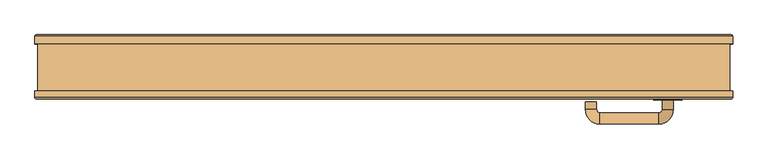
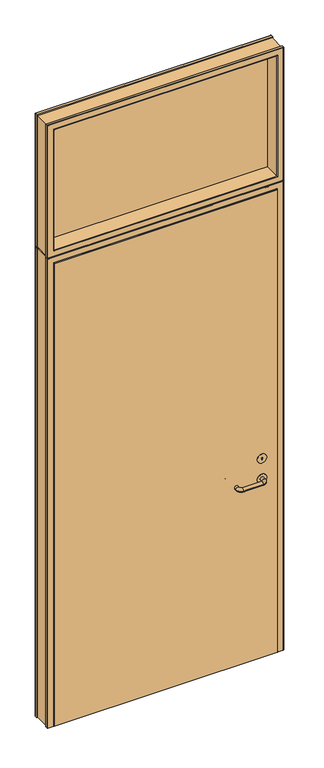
"""IFC4 building model written with IfcOpenShell, lengths in millimetres: door geometry, WOOD LINE_DÖRR & GLASPARTI INDRAGEN SOCKEL : WOOD LINE_DÖRR & GLASPARTI INDRAGEN SOCKEL."""

from ifc_helpers import new_model, si_unit, point, frame, frame_2d, origin, origin_with_axes, place, context, project, spatial, polyline, circle_curve, ellipse_curve, trimmed, segment, composite_curve, outline, extrude, source, transform, mapped, element, save
from ifc_brep_helpers import plane_surface, cylinder_surface, revolved_surface, advanced_brep


def door_3c1db5f4(model_context):
    return source(origin(), model_context, "Body", "SolidModel", [
        extrude(outline(polyline([(480.4836936, 76.5), (480.4836936, 72.5), (-480.4836936, 72.5), (-480.4836936, 76.5), (480.4836936, 76.5)])), frame((0.0, 0.0, 2119.5163064), z_axis=(0.0, 0.0, 1.0), x_axis=(1.0, 0.0, 0.0)), (0.0, 0.0, 1.0), 556.9673873),
        advanced_brep(
        [(399.0, 5.5388046, 800.0), (415.0, 5.5388046, 800.0), (399.0, -14.9611954, 800.0), (415.0, -14.9611954, 800.0), (305.0, -4.4611954, 800.0), (289.0, -4.4611954, 800.0), (394.0, -35.9611954, 800.0), (394.0, -19.9611954, 800.0), (310.0, -19.9611954, 800.0), (310.0, -35.9611954, 800.0), (289.0, -14.9611954, 800.0), (305.0, -14.9611954, 800.0)],
        [
            (0, 1, circle_curve(frame((407.0, 5.5388046, 800.0), z_axis=(0.0, 1.0, 0.0), x_axis=(1.0, 0.0, 0.0)), 8.0)),
            (1, 0, circle_curve(frame((407.0, 5.5388046, 800.0), z_axis=(0.0, 1.0, 0.0), x_axis=(1.0, 0.0, 0.0)), 8.0)),
            (0, 2),
            (2, 3, circle_curve(frame((407.0, -14.9611954, 800.0), z_axis=(0.0, 1.0, 0.0), x_axis=(1.0, 0.0, 0.0)), 8.0)),
            (3, 1),
            (3, 2, circle_curve(frame((407.0, -14.9611954, 800.0), z_axis=(0.0, 1.0, 0.0), x_axis=(1.0, 0.0, 0.0)), 8.0)),
            (4, 5, circle_curve(frame((297.0, -4.4611954, 800.0), z_axis=(0.0, 1.0, 0.0), x_axis=(-1.0, 0.0, 0.0)), 8.0)),
            (5, 4, circle_curve(frame((297.0, -4.4611954, 800.0), z_axis=(0.0, 1.0, 0.0), x_axis=(-1.0, 0.0, 0.0)), 8.0)),
            (6, 3, circle_curve(frame((394.0, -14.9611954, 800.0), z_axis=(0.0, 0.0, 1.0), x_axis=(1.0, 0.0, 0.0)), 21.0)),
            (2, 7, circle_curve(frame((394.0, -14.9611954, 800.0), z_axis=(0.0, 0.0, -1.0), x_axis=(1.0, 0.0, 0.0)), 5.0)),
            (7, 6, circle_curve(frame((394.0, -27.9611954, 800.0), z_axis=(1.0, 0.0, 0.0), x_axis=(0.0, -1.0, 0.0)), 8.0)),
            (6, 7, circle_curve(frame((394.0, -27.9611954, 800.0), z_axis=(1.0, 0.0, 0.0), x_axis=(0.0, -1.0, 0.0)), 8.0)),
            (7, 8),
            (8, 9, circle_curve(frame((310.0, -27.9611954, 800.0), z_axis=(1.0, 0.0, 0.0), x_axis=(0.0, -1.0, 0.0)), 8.0)),
            (9, 6),
            (9, 8, circle_curve(frame((310.0, -27.9611954, 800.0), z_axis=(1.0, 0.0, 0.0), x_axis=(0.0, -1.0, 0.0)), 8.0)),
            (10, 9, circle_curve(frame((310.0, -14.9611954, 800.0), z_axis=(0.0, 0.0, 1.0), x_axis=(0.0, -1.0, 0.0)), 21.0)),
            (8, 11, circle_curve(frame((310.0, -14.9611954, 800.0), z_axis=(0.0, 0.0, -1.0), x_axis=(0.0, -1.0, 0.0)), 5.0)),
            (11, 10, circle_curve(frame((297.0, -14.9611954, 800.0), z_axis=(0.0, -1.0, 0.0), x_axis=(-1.0, 0.0, 0.0)), 8.0)),
            (10, 11, circle_curve(frame((297.0, -14.9611954, 800.0), z_axis=(0.0, -1.0, 0.0), x_axis=(-1.0, 0.0, 0.0)), 8.0)),
            (11, 4),
            (5, 10),
        ],
        [
            plane_surface(frame((407.0, 5.5388046, 0.0), z_axis=(0.0, 1.0, 0.0), x_axis=(0.0, 0.0, 1.0))),
            cylinder_surface(frame((407.0, 5.5388046, 800.0), z_axis=(0.0, 1.0, 0.0), x_axis=(1.0, 0.0, 0.0)), 8.0),
            plane_surface(frame((297.0, -4.4611954, 0.0), z_axis=(0.0, 1.0, 0.0), x_axis=(0.0, 0.0, 1.0))),
            revolved_surface(trimmed(ellipse_curve(frame((407.0, -14.9611954, 800.0), z_axis=(0.0, 1.0, 0.0), x_axis=(1.0, 0.0, 0.0)), 8.0, 8.0), [point((399.0, -14.9611954, 800.0))], [point((415.0, -14.9611954, 800.0))], True, "CARTESIAN"), (394.0, -14.9611954, 0.0), (0.0, 0.0, -1.0)),
            revolved_surface(trimmed(ellipse_curve(frame((407.0, -14.9611954, 800.0), z_axis=(0.0, 1.0, 0.0), x_axis=(1.0, 0.0, 0.0)), 8.0, 8.0), [point((415.0, -14.9611954, 800.0))], [point((399.0, -14.9611954, 800.0))], True, "CARTESIAN"), (394.0, -14.9611954, 0.0), (0.0, 0.0, -1.0)),
            cylinder_surface(frame((394.0, -27.9611954, 800.0), z_axis=(1.0, 0.0, 0.0), x_axis=(0.0, -1.0, 0.0)), 8.0),
            revolved_surface(trimmed(ellipse_curve(frame((310.0, -27.9611954, 800.0), z_axis=(1.0, 0.0, 0.0), x_axis=(0.0, -1.0, 0.0)), 8.0, 8.0), [point((310.0, -19.9611954, 800.0))], [point((310.0, -35.9611954, 800.0))], True, "CARTESIAN"), (310.0, -14.9611954, 0.0), (0.0, 0.0, -1.0)),
            revolved_surface(trimmed(ellipse_curve(frame((310.0, -27.9611954, 800.0), z_axis=(1.0, 0.0, 0.0), x_axis=(0.0, -1.0, 0.0)), 8.0, 8.0), [point((310.0, -35.9611954, 800.0))], [point((310.0, -19.9611954, 800.0))], True, "CARTESIAN"), (310.0, -14.9611954, 0.0), (0.0, 0.0, -1.0)),
            cylinder_surface(frame((297.0, -14.9611954, 800.0), z_axis=(0.0, -1.0, 0.0), x_axis=(-1.0, 0.0, 0.0)), 8.0),
        ],
        [
            (0, [[1, 2]]),
            (1, [[-1, 3, 4, 5]]),
            (1, [[-2, -5, 6, -3]]),
            (2, [[7, 8]]),
            (3, [[9, -4, 10, 11]]),
            (4, [[-10, -6, -9, 12]]),
            (5, [[-11, 13, 14, 15]]),
            (5, [[-12, -15, 16, -13]]),
            (6, [[17, -14, 18, 19]]),
            (7, [[-18, -16, -17, 20]]),
            (8, [[-19, 21, -8, 22]]),
            (8, [[-20, -22, -7, -21]]),
        ],
    ),
        extrude(outline(composite_curve([segment(trimmed(circle_curve(frame_2d((800.0, 407.0)), 20.0), [point((800.0, 387.0))], [point((800.0, 427.0))], False, "CARTESIAN"), True, "CONTINUOUS"), segment(trimmed(circle_curve(frame_2d((800.0, 407.0)), 20.0), [point((800.0, 427.0))], [point((800.0, 387.0))], False, "CARTESIAN"), True, "CONTINUOUS")], self_intersect=False)), frame((0.0, -1.6149272, 0.0), z_axis=(0.0, 1.0, 0.0), x_axis=(0.0, 0.0, 1.0)), (0.0, 0.0, 1.0), 1.6149272),
        extrude(outline(composite_curve([segment(trimmed(circle_curve(frame_2d((890.0, 407.0)), 20.0), [point((890.0, 387.0))], [point((890.0, 427.0))], False, "CARTESIAN"), True, "CONTINUOUS"), segment(trimmed(circle_curve(frame_2d((890.0, 407.0)), 20.0), [point((890.0, 427.0))], [point((890.0, 387.0))], False, "CARTESIAN"), True, "CONTINUOUS")], self_intersect=False), holes=[composite_curve([segment(trimmed(circle_curve(frame_2d((892.0, 407.0)), 2.5), [point((889.7087122, 406.0))], [point((889.7087122, 408.0))], True, "CARTESIAN"), True, "CONTINUOUS"), segment(polyline([(889.7087122, 408.0), (884.5, 408.0), (884.5, 406.0), (889.7087122, 406.0)]), True, "CONTINUOUS")], self_intersect=False)]), frame((0.0, -1.6149272, 0.0), z_axis=(0.0, 1.0, 0.0), x_axis=(0.0, 0.0, 1.0)), (0.0, 0.0, 1.0), 1.6149272),
        advanced_brep(
        [(-472.0, 90.0, 2128.0), (-474.0, 92.0, 2126.0), (-474.0, 92.0, 2670.0), (-472.0, 90.0, 2668.0), (-472.0, 78.0, 2128.0), (-472.0, 78.0, 2668.0), (-474.0, 0.0, 2126.0), (-472.0, 2.0, 2128.0), (-472.0, 2.0, 2668.0), (-474.0, 0.0, 2670.0), (-500.0, 90.0, 2100.0), (-500.0, 79.0, 2100.0), (-500.0, 79.0, 2696.0), (-500.0, 90.0, 2696.0), (-498.0, 92.0, 2102.0), (-498.0, 92.0, 2694.0), (472.0, 90.0, 2668.0), (474.0, 92.0, 2670.0), (474.0, 92.0, 2126.0), (472.0, 90.0, 2128.0), (472.0, 78.0, 2668.0), (472.0, 78.0, 2128.0), (474.0, 0.0, 2670.0), (472.0, 2.0, 2668.0), (472.0, 2.0, 2128.0), (474.0, 0.0, 2126.0), (500.0, 90.0, 2696.0), (500.0, 79.0, 2696.0), (500.0, 79.0, 2100.0), (500.0, 90.0, 2100.0), (498.0, 92.0, 2694.0), (498.0, 92.0, 2102.0), (-498.0, 0.0, 2102.0), (498.0, 0.0, 2102.0), (498.0, 0.0, 2694.0), (-498.0, 0.0, 2694.0), (500.0, 2.0, 2100.0), (-500.0, 2.0, 2100.0), (500.0, 11.0, 2100.0), (-500.0, 11.0, 2100.0), (496.0, 79.0, 2104.0), (496.0, 11.0, 2104.0), (-496.0, 11.0, 2104.0), (-496.0, 79.0, 2104.0), (-500.0, 2.0, 2696.0), (-500.0, 11.0, 2696.0), (-496.0, 11.0, 2692.0), (-496.0, 79.0, 2692.0), (500.0, 2.0, 2696.0), (500.0, 11.0, 2696.0), (496.0, 11.0, 2692.0), (496.0, 79.0, 2692.0), (482.4836936, 71.0, 2117.5163064), (482.4836936, 78.0, 2117.5163064), (-482.4836936, 78.0, 2117.5163064), (-482.4836936, 71.0, 2117.5163064), (472.0, 71.0, 2128.0), (-472.0, 71.0, 2128.0), (-482.4836936, 78.0, 2678.4836936), (-482.4836936, 71.0, 2678.4836936), (-472.0, 71.0, 2668.0), (482.4836936, 78.0, 2678.4836936), (482.4836936, 71.0, 2678.4836936), (472.0, 71.0, 2668.0)],
        [
            (0, 1, ellipse_curve(frame((-474.0, 90.0, 2126.0), z_axis=(-0.7071067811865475, 0.0, 0.7071067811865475), x_axis=(-0.7071067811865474, 0.0, -0.7071067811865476)), 2.8284271, 2.0)),
            (1, 2),
            (2, 3, ellipse_curve(frame((-474.0, 90.0, 2670.0), z_axis=(-0.7071067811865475, 0.0, -0.7071067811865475), x_axis=(0.7071067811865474, 0.0, -0.7071067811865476)), 2.8284271, 2.0)),
            (3, 0),
            (4, 0),
            (3, 5),
            (5, 4),
            (6, 7, ellipse_curve(frame((-474.0, 2.0, 2126.0), z_axis=(-0.7071067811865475, 0.0, 0.7071067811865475), x_axis=(-0.7071067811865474, 0.0, -0.7071067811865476)), 2.8284271, 2.0)),
            (7, 8),
            (8, 9, ellipse_curve(frame((-474.0, 2.0, 2670.0), z_axis=(-0.7071067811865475, 0.0, -0.7071067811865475), x_axis=(0.7071067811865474, 0.0, -0.7071067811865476)), 2.8284271, 2.0)),
            (9, 6),
            (10, 11),
            (11, 12),
            (12, 13),
            (13, 10),
            (14, 10, ellipse_curve(frame((-498.0, 90.0, 2102.0), z_axis=(-0.7071067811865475, 0.0, 0.7071067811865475), x_axis=(-0.7071067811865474, 0.0, -0.7071067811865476)), 2.8284271, 2.0)),
            (13, 15, ellipse_curve(frame((-498.0, 90.0, 2694.0), z_axis=(-0.7071067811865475, 0.0, -0.7071067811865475), x_axis=(0.7071067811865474, 0.0, -0.7071067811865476)), 2.8284271, 2.0)),
            (15, 14),
            (16, 17, ellipse_curve(frame((474.0, 90.0, 2670.0), z_axis=(0.7071067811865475, 0.0, -0.7071067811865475), x_axis=(0.7071067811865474, 0.0, 0.7071067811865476)), 2.8284271, 2.0)),
            (17, 18),
            (18, 19, ellipse_curve(frame((474.0, 90.0, 2126.0), z_axis=(0.7071067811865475, 0.0, 0.7071067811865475), x_axis=(-0.7071067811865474, 0.0, 0.7071067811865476)), 2.8284271, 2.0)),
            (19, 16),
            (20, 16),
            (19, 21),
            (21, 20),
            (22, 23, ellipse_curve(frame((474.0, 2.0, 2670.0), z_axis=(0.7071067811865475, 0.0, -0.7071067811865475), x_axis=(0.7071067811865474, 0.0, 0.7071067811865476)), 2.8284271, 2.0)),
            (23, 24),
            (24, 25, ellipse_curve(frame((474.0, 2.0, 2126.0), z_axis=(0.7071067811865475, 0.0, 0.7071067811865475), x_axis=(-0.7071067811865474, 0.0, 0.7071067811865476)), 2.8284271, 2.0)),
            (25, 22),
            (26, 27),
            (27, 28),
            (28, 29),
            (29, 26),
            (30, 26, ellipse_curve(frame((498.0, 90.0, 2694.0), z_axis=(0.7071067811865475, 0.0, -0.7071067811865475), x_axis=(0.7071067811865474, 0.0, 0.7071067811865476)), 2.8284271, 2.0)),
            (29, 31, ellipse_curve(frame((498.0, 90.0, 2102.0), z_axis=(0.7071067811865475, 0.0, 0.7071067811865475), x_axis=(-0.7071067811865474, 0.0, 0.7071067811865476)), 2.8284271, 2.0)),
            (31, 30),
            (2, 17),
            (16, 3),
            (20, 5),
            (8, 23),
            (22, 9),
            (12, 27),
            (26, 13),
            (30, 15),
            (18, 1),
            (0, 19),
            (4, 21),
            (24, 7),
            (6, 25),
            (32, 33),
            (33, 34),
            (34, 35),
            (35, 32),
            (28, 11),
            (10, 29),
            (14, 31),
            (36, 33, ellipse_curve(frame((498.0, 2.0, 2102.0), z_axis=(-0.7071067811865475, 0.0, -0.7071067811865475), x_axis=(0.7071067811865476, 0.0, -0.7071067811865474)), 2.8284271, 2.0)),
            (32, 37, ellipse_curve(frame((-498.0, 2.0, 2102.0), z_axis=(0.7071067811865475, 0.0, -0.7071067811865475), x_axis=(0.7071067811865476, 0.0, 0.7071067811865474)), 2.8284271, 2.0)),
            (37, 36),
            (38, 36),
            (37, 39),
            (39, 38),
            (40, 41),
            (41, 42),
            (42, 43),
            (43, 40),
            (35, 44, ellipse_curve(frame((-498.0, 2.0, 2694.0), z_axis=(-0.7071067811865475, 0.0, -0.7071067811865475), x_axis=(0.7071067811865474, 0.0, -0.7071067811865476)), 2.8284271, 2.0)),
            (44, 37),
            (44, 45),
            (45, 39),
            (42, 46),
            (46, 47),
            (47, 43),
            (34, 48, ellipse_curve(frame((498.0, 2.0, 2694.0), z_axis=(-0.7071067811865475, 0.0, 0.7071067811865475), x_axis=(-0.7071067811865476, 0.0, -0.7071067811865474)), 2.8284271, 2.0)),
            (48, 44),
            (48, 49),
            (49, 45),
            (46, 50),
            (50, 51),
            (51, 47),
            (36, 48),
            (38, 49),
            (41, 50),
            (40, 51),
            (52, 53),
            (53, 54),
            (54, 55),
            (55, 52),
            (24, 56),
            (56, 57),
            (57, 7),
            (54, 58),
            (58, 59),
            (59, 55),
            (57, 60),
            (60, 8),
            (58, 61),
            (61, 62),
            (62, 59),
            (60, 63),
            (63, 23),
            (53, 61),
            (52, 62),
            (56, 63),
        ],
        [
            cylinder_surface(frame((-474.0, 90.0, 2100.0), z_axis=(0.0, 0.0, -1.0), x_axis=(0.0, -1.0, 0.0)), 2.0),
            plane_surface(frame((-472.0, 90.0, 2128.0), z_axis=(1.0, 0.0, 0.0), x_axis=(0.0, 0.0, 1.0))),
            cylinder_surface(frame((-474.0, 2.0, 2100.0), z_axis=(0.0, 0.0, -1.0), x_axis=(0.0, -1.0, 0.0)), 2.0),
            plane_surface(frame((-500.0, 79.0, 2100.0), z_axis=(-1.0, 0.0, 0.0), x_axis=(0.0, 0.0, 1.0))),
            cylinder_surface(frame((-498.0, 90.0, 2100.0), z_axis=(0.0, 0.0, -1.0), x_axis=(0.0, -1.0, 0.0)), 2.0),
            cylinder_surface(frame((474.0, 90.0, 2696.0), z_axis=(0.0, 0.0, 1.0), x_axis=(0.0, -1.0, 0.0)), 2.0),
            plane_surface(frame((472.0, 90.0, 2668.0), z_axis=(-1.0, 0.0, 0.0), x_axis=(0.0, 0.0, -1.0))),
            cylinder_surface(frame((474.0, 2.0, 2696.0), z_axis=(0.0, 0.0, 1.0), x_axis=(0.0, -1.0, 0.0)), 2.0),
            plane_surface(frame((500.0, 79.0, 2696.0), z_axis=(1.0, 0.0, 0.0), x_axis=(0.0, 0.0, -1.0))),
            cylinder_surface(frame((498.0, 90.0, 2696.0), z_axis=(0.0, 0.0, 1.0), x_axis=(0.0, -1.0, 0.0)), 2.0),
            cylinder_surface(frame((-500.0, 90.0, 2670.0), z_axis=(-1.0, 0.0, 0.0), x_axis=(0.0, -1.0, 0.0)), 2.0),
            plane_surface(frame((-472.0, 90.0, 2668.0), z_axis=(0.0, 0.0, -1.0), x_axis=(1.0, 0.0, 0.0))),
            cylinder_surface(frame((-500.0, 2.0, 2670.0), z_axis=(-1.0, 0.0, 0.0), x_axis=(0.0, -1.0, 0.0)), 2.0),
            plane_surface(frame((-500.0, 79.0, 2696.0), z_axis=(0.0, 0.0, 1.0), x_axis=(1.0, 0.0, 0.0))),
            cylinder_surface(frame((-500.0, 90.0, 2694.0), z_axis=(-1.0, 0.0, 0.0), x_axis=(0.0, -1.0, 0.0)), 2.0),
            cylinder_surface(frame((500.0, 90.0, 2126.0), z_axis=(1.0, 0.0, 0.0), x_axis=(0.0, -1.0, 0.0)), 2.0),
            plane_surface(frame((472.0, 90.0, 2128.0), z_axis=(0.0, 0.0, 1.0), x_axis=(-1.0, 0.0, 0.0))),
            cylinder_surface(frame((500.0, 2.0, 2126.0), z_axis=(1.0, 0.0, 0.0), x_axis=(0.0, -1.0, 0.0)), 2.0),
            plane_surface(frame((474.0, 0.0, 2126.0), z_axis=(0.0, -1.0, 0.0), x_axis=(-1.0, 0.0, 0.0))),
            plane_surface(frame((500.0, 79.0, 2100.0), z_axis=(0.0, 0.0, -1.0), x_axis=(-1.0, 0.0, 0.0))),
            cylinder_surface(frame((500.0, 90.0, 2102.0), z_axis=(1.0, 0.0, 0.0), x_axis=(0.0, -1.0, 0.0)), 2.0),
            plane_surface(frame((498.0, 92.0, 2102.0), z_axis=(0.0, 1.0, 0.0), x_axis=(-1.0, 0.0, 0.0))),
            cylinder_surface(frame((500.0, 2.0, 2102.0), z_axis=(1.0, 0.0, 0.0), x_axis=(0.0, -1.0, 0.0)), 2.0),
            plane_surface(frame((500.0, 2.0, 2100.0), z_axis=(0.0, 0.0, -1.0), x_axis=(-1.0, 0.0, 0.0))),
            plane_surface(frame((496.0, 11.0, 2104.0), z_axis=(0.0, 0.0, -1.0), x_axis=(-1.0, 0.0, 0.0))),
            cylinder_surface(frame((-498.0, 2.0, 2100.0), z_axis=(0.0, 0.0, -1.0), x_axis=(0.0, -1.0, 0.0)), 2.0),
            plane_surface(frame((-500.0, 2.0, 2100.0), z_axis=(-1.0, 0.0, 0.0), x_axis=(0.0, 0.0, 1.0))),
            plane_surface(frame((-496.0, 11.0, 2104.0), z_axis=(-1.0, 0.0, 0.0), x_axis=(0.0, 0.0, 1.0))),
            cylinder_surface(frame((-500.0, 2.0, 2694.0), z_axis=(-1.0, 0.0, 0.0), x_axis=(0.0, -1.0, 0.0)), 2.0),
            plane_surface(frame((-500.0, 2.0, 2696.0), z_axis=(0.0, 0.0, 1.0), x_axis=(1.0, 0.0, 0.0))),
            plane_surface(frame((-496.0, 11.0, 2692.0), z_axis=(0.0, 0.0, 1.0), x_axis=(1.0, 0.0, 0.0))),
            cylinder_surface(frame((498.0, 2.0, 2696.0), z_axis=(0.0, 0.0, 1.0), x_axis=(0.0, -1.0, 0.0)), 2.0),
            plane_surface(frame((500.0, 2.0, 2696.0), z_axis=(1.0, 0.0, 0.0), x_axis=(0.0, 0.0, -1.0))),
            plane_surface(frame((500.0, 11.0, 2696.0), z_axis=(0.0, 1.0, 0.0), x_axis=(0.0, 0.0, -1.0))),
            plane_surface(frame((496.0, 11.0, 2692.0), z_axis=(1.0, 0.0, 0.0), x_axis=(0.0, 0.0, -1.0))),
            plane_surface(frame((496.0, 79.0, 2692.0), z_axis=(0.0, -1.0, 0.0), x_axis=(0.0, 0.0, -1.0))),
            plane_surface(frame((482.4836936, 78.0, 2117.5163064), z_axis=(0.0, 0.0, 1.0), x_axis=(-1.0, 0.0, 0.0))),
            plane_surface(frame((472.0, 71.0, 2128.0), z_axis=(0.0, 0.0, 1.0), x_axis=(-1.0, 0.0, 0.0))),
            plane_surface(frame((-482.4836936, 78.0, 2117.5163064), z_axis=(1.0, 0.0, 0.0), x_axis=(0.0, 0.0, 1.0))),
            plane_surface(frame((-472.0, 71.0, 2128.0), z_axis=(1.0, 0.0, 0.0), x_axis=(0.0, 0.0, 1.0))),
            plane_surface(frame((-482.4836936, 78.0, 2678.4836936), z_axis=(0.0, 0.0, -1.0), x_axis=(1.0, 0.0, 0.0))),
            plane_surface(frame((-472.0, 71.0, 2668.0), z_axis=(0.0, 0.0, -1.0), x_axis=(1.0, 0.0, 0.0))),
            plane_surface(frame((472.0, 78.0, 2668.0), z_axis=(0.0, -1.0, 0.0), x_axis=(0.0, 0.0, -1.0))),
            plane_surface(frame((482.4836936, 78.0, 2678.4836936), z_axis=(-1.0, 0.0, 0.0), x_axis=(0.0, 0.0, -1.0))),
            plane_surface(frame((482.4836936, 71.0, 2678.4836936), z_axis=(0.0, 1.0, 0.0), x_axis=(0.0, 0.0, -1.0))),
            plane_surface(frame((472.0, 71.0, 2668.0), z_axis=(-1.0, 0.0, 0.0), x_axis=(0.0, 0.0, -1.0))),
        ],
        [
            (0, [[1, 2, 3, 4]]),
            (1, [[5, -4, 6, 7]]),
            (2, [[8, 9, 10, 11]]),
            (3, [[12, 13, 14, 15]]),
            (4, [[16, -15, 17, 18]]),
            (5, [[19, 20, 21, 22]]),
            (6, [[23, -22, 24, 25]]),
            (7, [[26, 27, 28, 29]]),
            (8, [[30, 31, 32, 33]]),
            (9, [[34, -33, 35, 36]]),
            (10, [[-3, 37, -19, 38]]),
            (11, [[-6, -38, -23, 39]]),
            (12, [[-10, 40, -26, 41]]),
            (13, [[-14, 42, -30, 43]]),
            (14, [[-17, -43, -34, 44]]),
            (15, [[-21, 45, -1, 46]]),
            (16, [[-24, -46, -5, 47]]),
            (17, [[-28, 48, -8, 49]]),
            (18, [[50, 51, 52, 53], [-11, -41, -29, -49]]),
            (19, [[-32, 54, -12, 55]]),
            (20, [[-35, -55, -16, 56]]),
            (21, [[-18, -44, -36, -56], [-45, -20, -37, -2]]),
            (22, [[57, -50, 58, 59]]),
            (23, [[60, -59, 61, 62]]),
            (24, [[63, 64, 65, 66]]),
            (25, [[-58, -53, 67, 68]]),
            (26, [[-61, -68, 69, 70]]),
            (27, [[-65, 71, 72, 73]]),
            (28, [[-67, -52, 74, 75]]),
            (29, [[-69, -75, 76, 77]]),
            (30, [[-72, 78, 79, 80]]),
            (31, [[-74, -51, -57, 81]]),
            (32, [[-76, -81, -60, 82]]),
            (33, [[-70, -77, -82, -62], [83, -78, -71, -64]]),
            (34, [[-79, -83, -63, 84]]),
            (35, [[-31, -42, -13, -54], [-73, -80, -84, -66]]),
            (36, [[85, 86, 87, 88]]),
            (37, [[89, 90, 91, -48]]),
            (38, [[-87, 92, 93, 94]]),
            (39, [[-91, 95, 96, -9]]),
            (40, [[-93, 97, 98, 99]]),
            (41, [[-96, 100, 101, -40]]),
            (42, [[102, -97, -92, -86], [-7, -39, -25, -47]]),
            (43, [[-98, -102, -85, 103]]),
            (44, [[-94, -99, -103, -88], [104, -100, -95, -90]]),
            (45, [[-101, -104, -89, -27]]),
        ],
    ),
        extrude(outline(polyline([(472.0, 0.0), (-472.0, 0.0), (-472.0, 40.0), (472.0, 40.0), (472.0, 0.0)])), origin_with_axes(), (0.0, 0.0, 1.0), 2069.0),
        advanced_brep(
        [(-498.0, 92.0, 0.0), (-474.0, 92.0, 0.0), (-472.0, 90.0, 0.0), (-472.0, 87.0, 0.0), (-461.0361518, 87.0, 0.0), (-459.0361518, 85.0, 0.0), (-459.0, 45.0, 0.0), (-461.0361518, 43.0, 0.0), (-472.0, 43.0, 0.0), (-472.0, 2.0, 0.0), (-474.0, 0.0, 0.0), (-498.0, 0.0, 0.0), (-500.0, 2.0, 0.0), (-500.0, 11.0, 0.0), (-496.0, 11.0, 0.0), (-496.0, 79.0, 0.0), (-500.0, 79.0, 0.0), (-500.0, 90.0, 0.0), (498.0, 92.0, 0.0), (500.0, 90.0, 0.0), (500.0, 79.0, 0.0), (496.0, 79.0, 0.0), (496.0, 11.0, 0.0), (500.0, 11.0, 0.0), (500.0, 2.0, 0.0), (498.0, 0.0, 0.0), (474.0, 0.0, 0.0), (472.0, 2.0, 0.0), (472.0, 43.0, 0.0), (461.0361518, 43.0, 0.0), (459.0361518, 45.0, 0.0), (459.0, 85.0, 0.0), (461.0361518, 87.0, 0.0), (472.0, 87.0, 0.0), (472.0, 90.0, 0.0), (474.0, 92.0, 0.0), (-498.0, 92.0, 2098.0), (498.0, 92.0, 2098.0), (474.0, 92.0, 2074.0), (-474.0, 92.0, 2074.0), (-472.0, 90.0, 2072.0), (-472.0, 87.0, 2072.0), (472.0, 87.0, 2072.0), (461.0361518, 87.0, 2061.0361518), (-461.0361518, 87.0, 2061.0361518), (-459.0361518, 85.0, 2059.0361518), (-459.0, 45.0, 2059.0), (-461.0361518, 43.0, 2061.0361518), (461.0361518, 43.0, 2061.0361518), (472.0, 43.0, 2072.0), (-472.0, 43.0, 2072.0), (-472.0, 2.0, 2072.0), (-474.0, 0.0, 2074.0), (474.0, 0.0, 2074.0), (498.0, 0.0, 2098.0), (-498.0, 0.0, 2098.0), (-500.0, 2.0, 2100.0), (-500.0, 11.0, 2100.0), (500.0, 11.0, 2100.0), (496.0, 11.0, 2096.0), (-496.0, 11.0, 2096.0), (-496.0, 79.0, 2096.0), (496.0, 79.0, 2096.0), (500.0, 79.0, 2100.0), (-500.0, 79.0, 2100.0), (-500.0, 90.0, 2100.0), (472.0, 90.0, 2072.0), (459.0361518, 85.0, 2059.0361518), (459.0, 45.0, 2059.0), (472.0, 2.0, 2072.0), (500.0, 2.0, 2100.0), (500.0, 90.0, 2100.0)],
        [
            (0, 1),
            (1, 2, circle_curve(frame((-474.0, 90.0, 0.0), z_axis=(0.0, 0.0, -1.0), x_axis=(0.0, -1.0, 0.0)), 2.0)),
            (2, 3),
            (3, 4),
            (4, 5, circle_curve(frame((-461.0361518, 85.0, 0.0), z_axis=(0.0, 0.0, -1.0), x_axis=(0.0, -1.0, 0.0)), 2.0)),
            (5, 6),
            (6, 7, circle_curve(frame((-461.0361518, 45.0, 0.0), z_axis=(0.0, 0.0, -1.0), x_axis=(0.0, -1.0, 0.0)), 2.0)),
            (7, 8),
            (8, 9),
            (9, 10, circle_curve(frame((-474.0, 2.0, 0.0), z_axis=(0.0, 0.0, -1.0), x_axis=(0.0, -1.0, 0.0)), 2.0)),
            (10, 11),
            (11, 12, circle_curve(frame((-498.0, 2.0, 0.0), z_axis=(0.0, 0.0, -1.0), x_axis=(0.0, -1.0, 0.0)), 2.0)),
            (12, 13),
            (13, 14),
            (14, 15),
            (15, 16),
            (16, 17),
            (17, 0, circle_curve(frame((-498.0, 90.0, 0.0), z_axis=(0.0, 0.0, -1.0), x_axis=(0.0, -1.0, 0.0)), 2.0)),
            (18, 19, circle_curve(frame((498.0, 90.0, 0.0), z_axis=(0.0, 0.0, -1.0), x_axis=(0.0, -1.0, 0.0)), 2.0)),
            (19, 20),
            (20, 21),
            (21, 22),
            (22, 23),
            (23, 24),
            (24, 25, circle_curve(frame((498.0, 2.0, 0.0), z_axis=(0.0, 0.0, -1.0), x_axis=(0.0, -1.0, 0.0)), 2.0)),
            (25, 26),
            (26, 27, circle_curve(frame((474.0, 2.0, 0.0), z_axis=(0.0, 0.0, -1.0), x_axis=(0.0, -1.0, 0.0)), 2.0)),
            (27, 28),
            (28, 29),
            (29, 30, circle_curve(frame((461.0361518, 45.0, 0.0), z_axis=(0.0, 0.0, -1.0), x_axis=(0.0, -1.0, 0.0)), 2.0)),
            (30, 31),
            (31, 32, circle_curve(frame((461.0361518, 85.0, 0.0), z_axis=(0.0, 0.0, -1.0), x_axis=(0.0, -1.0, 0.0)), 2.0)),
            (32, 33),
            (33, 34),
            (34, 35, circle_curve(frame((474.0, 90.0, 0.0), z_axis=(0.0, 0.0, -1.0), x_axis=(0.0, -1.0, 0.0)), 2.0)),
            (35, 18),
            (0, 36),
            (36, 37),
            (37, 18),
            (35, 38),
            (38, 39),
            (39, 1),
            (39, 40, ellipse_curve(frame((-474.0, 90.0, 2074.0), z_axis=(-0.7071067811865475, 0.0, -0.7071067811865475), x_axis=(0.7071067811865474, 0.0, -0.7071067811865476)), 2.8284271, 2.0)),
            (40, 2),
            (40, 41),
            (41, 3),
            (41, 42),
            (42, 33),
            (32, 43),
            (43, 44),
            (44, 4),
            (44, 45, ellipse_curve(frame((-461.0361518, 85.0, 2061.0361518), z_axis=(-0.7071067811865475, 0.0, -0.7071067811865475), x_axis=(0.7071067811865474, 0.0, -0.7071067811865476)), 2.8284271, 2.0)),
            (45, 5),
            (45, 46),
            (46, 6),
            (46, 47, ellipse_curve(frame((-461.0361518, 45.0, 2061.0361518), z_axis=(-0.7071067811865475, 0.0, -0.7071067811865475), x_axis=(0.7071067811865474, 0.0, -0.7071067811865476)), 2.8284271, 2.0)),
            (47, 7),
            (47, 48),
            (48, 29),
            (28, 49),
            (49, 50),
            (50, 8),
            (50, 51),
            (51, 9),
            (51, 52, ellipse_curve(frame((-474.0, 2.0, 2074.0), z_axis=(-0.7071067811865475, 0.0, -0.7071067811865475), x_axis=(0.7071067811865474, 0.0, -0.7071067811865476)), 2.8284271, 2.0)),
            (52, 10),
            (52, 53),
            (53, 26),
            (25, 54),
            (54, 55),
            (55, 11),
            (55, 56, ellipse_curve(frame((-498.0, 2.0, 2098.0), z_axis=(-0.7071067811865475, 0.0, -0.7071067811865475), x_axis=(0.7071067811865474, 0.0, -0.7071067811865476)), 2.8284271, 2.0)),
            (56, 12),
            (56, 57),
            (57, 13),
            (57, 58),
            (58, 23),
            (22, 59),
            (59, 60),
            (60, 14),
            (60, 61),
            (61, 15),
            (61, 62),
            (62, 21),
            (20, 63),
            (63, 64),
            (64, 16),
            (64, 65),
            (65, 17),
            (65, 36, ellipse_curve(frame((-498.0, 90.0, 2098.0), z_axis=(-0.7071067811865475, 0.0, -0.7071067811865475), x_axis=(0.7071067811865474, 0.0, -0.7071067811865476)), 2.8284271, 2.0)),
            (38, 66, ellipse_curve(frame((474.0, 90.0, 2074.0), z_axis=(-0.7071067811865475, 0.0, 0.7071067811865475), x_axis=(-0.7071067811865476, 0.0, -0.7071067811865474)), 2.8284271, 2.0)),
            (66, 40),
            (66, 42),
            (43, 67, ellipse_curve(frame((461.0361518, 85.0, 2061.0361518), z_axis=(-0.7071067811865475, 0.0, 0.7071067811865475), x_axis=(-0.7071067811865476, 0.0, -0.7071067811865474)), 2.8284271, 2.0)),
            (67, 45),
            (67, 68),
            (68, 46),
            (68, 48, ellipse_curve(frame((461.0361518, 45.0, 2061.0361518), z_axis=(-0.7071067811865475, 0.0, 0.7071067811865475), x_axis=(-0.7071067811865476, 0.0, -0.7071067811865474)), 2.8284271, 2.0)),
            (49, 69),
            (69, 51),
            (69, 53, ellipse_curve(frame((474.0, 2.0, 2074.0), z_axis=(-0.7071067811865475, 0.0, 0.7071067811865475), x_axis=(-0.7071067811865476, 0.0, -0.7071067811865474)), 2.8284271, 2.0)),
            (54, 70, ellipse_curve(frame((498.0, 2.0, 2098.0), z_axis=(-0.7071067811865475, 0.0, 0.7071067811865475), x_axis=(-0.7071067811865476, 0.0, -0.7071067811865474)), 2.8284271, 2.0)),
            (70, 56),
            (70, 58),
            (59, 62),
            (63, 71),
            (71, 65),
            (71, 37, ellipse_curve(frame((498.0, 90.0, 2098.0), z_axis=(-0.7071067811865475, 0.0, 0.7071067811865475), x_axis=(-0.7071067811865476, 0.0, -0.7071067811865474)), 2.8284271, 2.0)),
            (34, 66),
            (31, 67),
            (30, 68),
            (27, 69),
            (24, 70),
            (19, 71),
        ],
        [
            plane_surface(frame((-500.0, 0.0, 0.0), z_axis=(0.0, 0.0, -1.0), x_axis=(0.0, -1.0, 0.0))),
            plane_surface(frame((500.0, 0.0, 0.0), z_axis=(0.0, 0.0, -1.0), x_axis=(0.0, -1.0, 0.0))),
            plane_surface(frame((-498.0, 92.0, 0.0), z_axis=(0.0, 1.0, 0.0), x_axis=(0.0, 0.0, 1.0))),
            cylinder_surface(frame((-474.0, 90.0, 0.0), z_axis=(0.0, 0.0, -1.0), x_axis=(0.0, -1.0, 0.0)), 2.0),
            plane_surface(frame((-472.0, 90.0, 0.0), z_axis=(1.0, 0.0, 0.0), x_axis=(0.0, 0.0, 1.0))),
            plane_surface(frame((-472.0, 87.0, 0.0), z_axis=(0.0, 1.0, 0.0), x_axis=(0.0, 0.0, 1.0))),
            cylinder_surface(frame((-461.0361518, 85.0, 0.0), z_axis=(0.0, 0.0, -1.0), x_axis=(0.0, -1.0, 0.0)), 2.0),
            plane_surface(frame((-459.0, 85.0, 0.0), z_axis=(1.0, 0.0, 0.0), x_axis=(0.0, 0.0, 1.0))),
            cylinder_surface(frame((-461.0361518, 45.0, 0.0), z_axis=(0.0, 0.0, -1.0), x_axis=(0.0, -1.0, 0.0)), 2.0),
            plane_surface(frame((-461.0361518, 43.0, 0.0), z_axis=(0.0, -1.0, 0.0), x_axis=(0.0, 0.0, 1.0))),
            plane_surface(frame((-472.0, 43.0, 0.0), z_axis=(1.0, 0.0, 0.0), x_axis=(0.0, 0.0, 1.0))),
            cylinder_surface(frame((-474.0, 2.0, 0.0), z_axis=(0.0, 0.0, -1.0), x_axis=(0.0, -1.0, 0.0)), 2.0),
            plane_surface(frame((-474.0, 0.0, 0.0), z_axis=(0.0, -1.0, 0.0), x_axis=(0.0, 0.0, 1.0))),
            cylinder_surface(frame((-498.0, 2.0, 0.0), z_axis=(0.0, 0.0, -1.0), x_axis=(0.0, -1.0, 0.0)), 2.0),
            plane_surface(frame((-500.0, 2.0, 0.0), z_axis=(-1.0, 0.0, 0.0), x_axis=(0.0, 0.0, 1.0))),
            plane_surface(frame((-500.0, 11.0, 0.0), z_axis=(0.0, 1.0, 0.0), x_axis=(0.0, 0.0, 1.0))),
            plane_surface(frame((-496.0, 11.0, 0.0), z_axis=(-1.0, 0.0, 0.0), x_axis=(0.0, 0.0, 1.0))),
            plane_surface(frame((-496.0, 79.0, 0.0), z_axis=(0.0, -1.0, 0.0), x_axis=(0.0, 0.0, 1.0))),
            plane_surface(frame((-500.0, 79.0, 0.0), z_axis=(-1.0, 0.0, 0.0), x_axis=(0.0, 0.0, 1.0))),
            cylinder_surface(frame((-498.0, 90.0, 0.0), z_axis=(0.0, 0.0, -1.0), x_axis=(0.0, -1.0, 0.0)), 2.0),
            cylinder_surface(frame((-500.0, 90.0, 2074.0), z_axis=(-1.0, 0.0, 0.0), x_axis=(0.0, -1.0, 0.0)), 2.0),
            plane_surface(frame((-472.0, 90.0, 2072.0), z_axis=(0.0, 0.0, -1.0), x_axis=(1.0, 0.0, 0.0))),
            cylinder_surface(frame((-500.0, 85.0, 2061.0361518), z_axis=(-1.0, 0.0, 0.0), x_axis=(0.0, -1.0, 0.0)), 2.0),
            plane_surface(frame((-459.0, 85.0, 2059.0), z_axis=(0.0, 0.0, -1.0), x_axis=(1.0, 0.0, 0.0))),
            cylinder_surface(frame((-500.0, 45.0, 2061.0361518), z_axis=(-1.0, 0.0, 0.0), x_axis=(0.0, -1.0, 0.0)), 2.0),
            plane_surface(frame((-472.0, 43.0, 2072.0), z_axis=(0.0, 0.0, -1.0), x_axis=(1.0, 0.0, 0.0))),
            cylinder_surface(frame((-500.0, 2.0, 2074.0), z_axis=(-1.0, 0.0, 0.0), x_axis=(0.0, -1.0, 0.0)), 2.0),
            cylinder_surface(frame((-500.0, 2.0, 2098.0), z_axis=(-1.0, 0.0, 0.0), x_axis=(0.0, -1.0, 0.0)), 2.0),
            plane_surface(frame((-500.0, 2.0, 2100.0), z_axis=(0.0, 0.0, 1.0), x_axis=(1.0, 0.0, 0.0))),
            plane_surface(frame((-496.0, 11.0, 2096.0), z_axis=(0.0, 0.0, 1.0), x_axis=(1.0, 0.0, 0.0))),
            plane_surface(frame((-500.0, 79.0, 2100.0), z_axis=(0.0, 0.0, 1.0), x_axis=(1.0, 0.0, 0.0))),
            cylinder_surface(frame((-500.0, 90.0, 2098.0), z_axis=(-1.0, 0.0, 0.0), x_axis=(0.0, -1.0, 0.0)), 2.0),
            cylinder_surface(frame((474.0, 90.0, 2100.0), z_axis=(0.0, 0.0, 1.0), x_axis=(0.0, -1.0, 0.0)), 2.0),
            plane_surface(frame((472.0, 90.0, 2072.0), z_axis=(-1.0, 0.0, 0.0), x_axis=(0.0, 0.0, -1.0))),
            cylinder_surface(frame((461.0361518, 85.0, 2100.0), z_axis=(0.0, 0.0, 1.0), x_axis=(0.0, -1.0, 0.0)), 2.0),
            plane_surface(frame((459.0, 85.0, 2059.0), z_axis=(-1.0, 0.0, 0.0), x_axis=(0.0, 0.0, -1.0))),
            cylinder_surface(frame((461.0361518, 45.0, 2100.0), z_axis=(0.0, 0.0, 1.0), x_axis=(0.0, -1.0, 0.0)), 2.0),
            plane_surface(frame((472.0, 43.0, 2072.0), z_axis=(-1.0, 0.0, 0.0), x_axis=(0.0, 0.0, -1.0))),
            cylinder_surface(frame((474.0, 2.0, 2100.0), z_axis=(0.0, 0.0, 1.0), x_axis=(0.0, -1.0, 0.0)), 2.0),
            cylinder_surface(frame((498.0, 2.0, 2100.0), z_axis=(0.0, 0.0, 1.0), x_axis=(0.0, -1.0, 0.0)), 2.0),
            plane_surface(frame((500.0, 2.0, 2100.0), z_axis=(1.0, 0.0, 0.0), x_axis=(0.0, 0.0, -1.0))),
            plane_surface(frame((496.0, 11.0, 2096.0), z_axis=(1.0, 0.0, 0.0), x_axis=(0.0, 0.0, -1.0))),
            plane_surface(frame((500.0, 79.0, 2100.0), z_axis=(1.0, 0.0, 0.0), x_axis=(0.0, 0.0, -1.0))),
            cylinder_surface(frame((498.0, 90.0, 2100.0), z_axis=(0.0, 0.0, 1.0), x_axis=(0.0, -1.0, 0.0)), 2.0),
        ],
        [
            (0, [[1, 2, 3, 4, 5, 6, 7, 8, 9, 10, 11, 12, 13, 14, 15, 16, 17, 18]]),
            (1, [[19, 20, 21, 22, 23, 24, 25, 26, 27, 28, 29, 30, 31, 32, 33, 34, 35, 36]]),
            (2, [[-1, 37, 38, 39, -36, 40, 41, 42]]),
            (3, [[-2, -42, 43, 44]]),
            (4, [[-3, -44, 45, 46]]),
            (5, [[-4, -46, 47, 48, -33, 49, 50, 51]]),
            (6, [[-5, -51, 52, 53]]),
            (7, [[-6, -53, 54, 55]]),
            (8, [[-7, -55, 56, 57]]),
            (9, [[-8, -57, 58, 59, -29, 60, 61, 62]]),
            (10, [[-9, -62, 63, 64]]),
            (11, [[-10, -64, 65, 66]]),
            (12, [[-11, -66, 67, 68, -26, 69, 70, 71]]),
            (13, [[-12, -71, 72, 73]]),
            (14, [[-13, -73, 74, 75]]),
            (15, [[-14, -75, 76, 77, -23, 78, 79, 80]]),
            (16, [[-15, -80, 81, 82]]),
            (17, [[-16, -82, 83, 84, -21, 85, 86, 87]]),
            (18, [[-17, -87, 88, 89]]),
            (19, [[-18, -89, 90, -37]]),
            (20, [[-43, -41, 91, 92]]),
            (21, [[-45, -92, 93, -47]]),
            (22, [[-52, -50, 94, 95]]),
            (23, [[-54, -95, 96, 97]]),
            (24, [[-56, -97, 98, -58]]),
            (25, [[-63, -61, 99, 100]]),
            (26, [[-65, -100, 101, -67]]),
            (27, [[-72, -70, 102, 103]]),
            (28, [[-74, -103, 104, -76]]),
            (29, [[-81, -79, 105, -83]]),
            (30, [[-88, -86, 106, 107]]),
            (31, [[-90, -107, 108, -38]]),
            (32, [[-91, -40, -35, 109]]),
            (33, [[-93, -109, -34, -48]]),
            (34, [[-94, -49, -32, 110]]),
            (35, [[-96, -110, -31, 111]]),
            (36, [[-98, -111, -30, -59]]),
            (37, [[-99, -60, -28, 112]]),
            (38, [[-101, -112, -27, -68]]),
            (39, [[-102, -69, -25, 113]]),
            (40, [[-104, -113, -24, -77]]),
            (41, [[-105, -78, -22, -84]]),
            (42, [[-106, -85, -20, 114]]),
            (43, [[-108, -114, -19, -39]]),
        ],
    ),
        extrude(outline(composite_curve([segment(trimmed(circle_curve(frame_2d((800.0, 407.0)), 20.0), [point((800.0, 427.0))], [point((800.0, 387.0))], False, "CARTESIAN"), True, "CONTINUOUS"), segment(trimmed(circle_curve(frame_2d((800.0, 407.0)), 20.0), [point((800.0, 387.0))], [point((800.0, 427.0))], False, "CARTESIAN"), True, "CONTINUOUS")], self_intersect=False)), frame((0.0, 40.0, 0.0), z_axis=(0.0, 1.0, 0.0), x_axis=(0.0, 0.0, 1.0)), (0.0, 0.0, 1.0), 1.2),
        extrude(outline(composite_curve([segment(trimmed(circle_curve(frame_2d((890.0, 407.0)), 20.0), [point((890.0, 387.0))], [point((890.0, 427.0))], False, "CARTESIAN"), True, "CONTINUOUS"), segment(trimmed(circle_curve(frame_2d((890.0, 407.0)), 20.0), [point((890.0, 427.0))], [point((890.0, 387.0))], False, "CARTESIAN"), True, "CONTINUOUS")], self_intersect=False), holes=[composite_curve([segment(trimmed(circle_curve(frame_2d((892.0, 407.0)), 2.5), [point((889.7087122, 406.0))], [point((889.7087122, 408.0))], True, "CARTESIAN"), True, "CONTINUOUS"), segment(polyline([(889.7087122, 408.0), (884.5, 408.0), (884.5, 406.0), (889.7087122, 406.0)]), True, "CONTINUOUS")], self_intersect=False)]), frame((0.0, 40.0, 0.0), z_axis=(0.0, 1.0, 0.0), x_axis=(0.0, 0.0, 1.0)), (0.0, 0.0, 1.0), 1.2),
        advanced_brep(
        [(399.0, 39.0388046, 800.0), (415.0, 39.0388046, 800.0), (399.0, 59.5388046, 800.0), (415.0, 59.5388046, 800.0), (394.0, 80.5388046, 800.0), (394.0, 64.5388046, 800.0), (310.0, 64.5388046, 800.0), (310.0, 80.5388046, 800.0), (289.0, 59.5388046, 800.0), (305.0, 59.5388046, 800.0), (305.0, 49.0388046, 800.0), (289.0, 49.0388046, 800.0)],
        [
            (0, 1, circle_curve(frame((407.0, 39.0388046, 800.0), z_axis=(0.0, -1.0, 0.0), x_axis=(-1.0, 0.0, 0.0)), 8.0)),
            (1, 0, circle_curve(frame((407.0, 39.0388046, 800.0), z_axis=(0.0, -1.0, 0.0), x_axis=(-1.0, 0.0, 0.0)), 8.0)),
            (0, 2),
            (2, 3, circle_curve(frame((407.0, 59.5388046, 800.0), z_axis=(0.0, -1.0, 0.0), x_axis=(-1.0, 0.0, 0.0)), 8.0)),
            (3, 1),
            (3, 2, circle_curve(frame((407.0, 59.5388046, 800.0), z_axis=(0.0, -1.0, 0.0), x_axis=(-1.0, 0.0, 0.0)), 8.0)),
            (4, 3, circle_curve(frame((394.0, 59.5388046, 800.0), z_axis=(0.0, 0.0, -1.0), x_axis=(1.0, 0.0, 0.0)), 21.0)),
            (2, 5, circle_curve(frame((394.0, 59.5388046, 800.0), z_axis=(0.0, 0.0, 1.0), x_axis=(1.0, 0.0, 0.0)), 5.0)),
            (5, 4, circle_curve(frame((394.0, 72.5388046, 800.0), z_axis=(1.0, 0.0, 0.0), x_axis=(0.0, -1.0, 0.0)), 8.0)),
            (4, 5, circle_curve(frame((394.0, 72.5388046, 800.0), z_axis=(1.0, 0.0, 0.0), x_axis=(0.0, -1.0, 0.0)), 8.0)),
            (5, 6),
            (6, 7, circle_curve(frame((310.0, 72.5388046, 800.0), z_axis=(1.0, 0.0, 0.0), x_axis=(0.0, -1.0, 0.0)), 8.0)),
            (7, 4),
            (7, 6, circle_curve(frame((310.0, 72.5388046, 800.0), z_axis=(1.0, 0.0, 0.0), x_axis=(0.0, -1.0, 0.0)), 8.0)),
            (8, 7, circle_curve(frame((310.0, 59.5388046, 800.0), z_axis=(0.0, 0.0, -1.0), x_axis=(0.0, 1.0, 0.0)), 21.0)),
            (6, 9, circle_curve(frame((310.0, 59.5388046, 800.0), z_axis=(0.0, 0.0, 1.0), x_axis=(0.0, 1.0, 0.0)), 5.0)),
            (9, 8, circle_curve(frame((297.0, 59.5388046, 800.0), z_axis=(0.0, 1.0, 0.0), x_axis=(1.0, 0.0, 0.0)), 8.0)),
            (8, 9, circle_curve(frame((297.0, 59.5388046, 800.0), z_axis=(0.0, 1.0, 0.0), x_axis=(1.0, 0.0, 0.0)), 8.0)),
            (10, 11, circle_curve(frame((297.0, 49.0388046, 800.0), z_axis=(0.0, -1.0, 0.0), x_axis=(1.0, 0.0, 0.0)), 8.0)),
            (11, 10, circle_curve(frame((297.0, 49.0388046, 800.0), z_axis=(0.0, -1.0, 0.0), x_axis=(1.0, 0.0, 0.0)), 8.0)),
            (9, 10),
            (11, 8),
        ],
        [
            plane_surface(frame((407.0, 39.0388046, 0.0), z_axis=(0.0, -1.0, 0.0), x_axis=(0.0, 0.0, 1.0))),
            cylinder_surface(frame((407.0, 39.0388046, 800.0), z_axis=(0.0, -1.0, 0.0), x_axis=(-1.0, 0.0, 0.0)), 8.0),
            revolved_surface(trimmed(ellipse_curve(frame((407.0, 59.5388046, 800.0), z_axis=(0.0, -1.0, 0.0), x_axis=(-1.0, 0.0, 0.0)), 8.0, 8.0), [point((399.0, 59.5388046, 800.0))], [point((415.0, 59.5388046, 800.0))], True, "CARTESIAN"), (394.0, 59.5388046, 0.0), (0.0, 0.0, 1.0)),
            revolved_surface(trimmed(ellipse_curve(frame((407.0, 59.5388046, 800.0), z_axis=(0.0, -1.0, 0.0), x_axis=(-1.0, 0.0, 0.0)), 8.0, 8.0), [point((415.0, 59.5388046, 800.0))], [point((399.0, 59.5388046, 800.0))], True, "CARTESIAN"), (394.0, 59.5388046, 0.0), (0.0, 0.0, 1.0)),
            cylinder_surface(frame((394.0, 72.5388046, 800.0), z_axis=(1.0, 0.0, 0.0), x_axis=(0.0, -1.0, 0.0)), 8.0),
            revolved_surface(trimmed(ellipse_curve(frame((310.0, 72.5388046, 800.0), z_axis=(1.0, 0.0, 0.0), x_axis=(0.0, -1.0, 0.0)), 8.0, 8.0), [point((310.0, 64.5388046, 800.0))], [point((310.0, 80.5388046, 800.0))], True, "CARTESIAN"), (310.0, 59.5388046, 0.0), (0.0, 0.0, 1.0)),
            revolved_surface(trimmed(ellipse_curve(frame((310.0, 72.5388046, 800.0), z_axis=(1.0, 0.0, 0.0), x_axis=(0.0, -1.0, 0.0)), 8.0, 8.0), [point((310.0, 80.5388046, 800.0))], [point((310.0, 64.5388046, 800.0))], True, "CARTESIAN"), (310.0, 59.5388046, 0.0), (0.0, 0.0, 1.0)),
            plane_surface(frame((297.0, 49.0388046, 0.0), z_axis=(0.0, -1.0, 0.0), x_axis=(0.0, 0.0, 1.0))),
            cylinder_surface(frame((297.0, 59.5388046, 800.0), z_axis=(0.0, 1.0, 0.0), x_axis=(1.0, 0.0, 0.0)), 8.0),
        ],
        [
            (0, [[1, 2]]),
            (1, [[-1, 3, 4, 5]]),
            (1, [[-2, -5, 6, -3]]),
            (2, [[7, -4, 8, 9]]),
            (3, [[-8, -6, -7, 10]]),
            (4, [[-9, 11, 12, 13]]),
            (4, [[-10, -13, 14, -11]]),
            (5, [[15, -12, 16, 17]]),
            (6, [[-16, -14, -15, 18]]),
            (7, [[19, 20]]),
            (8, [[-17, 21, -20, 22]]),
            (8, [[-18, -22, -19, -21]]),
        ],
    ),
    ])


if __name__ == "__main__":
    model = new_model("IFC4")
    model_context = context("Model", 3, world=origin())
    ifc_project = project(units=[si_unit("LENGTHUNIT", "METRE", prefix="MILLI")], contexts=[model_context])
    site = spatial("IfcSite", under=ifc_project)
    building = spatial("IfcBuilding", under=site)
    placement = place(None, origin())
    door_shape = door_3c1db5f4(model_context)
    element("IfcDoor", 1, ObjectType="WOOD LINE_DÖRR & GLASPARTI INDRAGEN SOCKEL : WOOD LINE_DÖRR & GLASPARTI INDRAGEN SOCKEL", at=placement, inside=building, context=model_context, shape_type="MappedRepresentation", body=[
        mapped(door_shape, transform((0.0, 0.0, 0.0), x_axis=(1.0, 0.0, 0.0), y_axis=(0.0, 1.0, 0.0), z_axis=(0.0, 0.0, 1.0))),
    ])
    save(model, "model.ifc")
